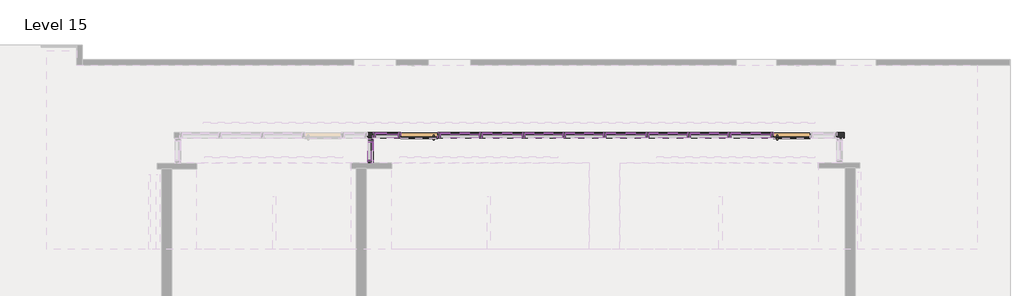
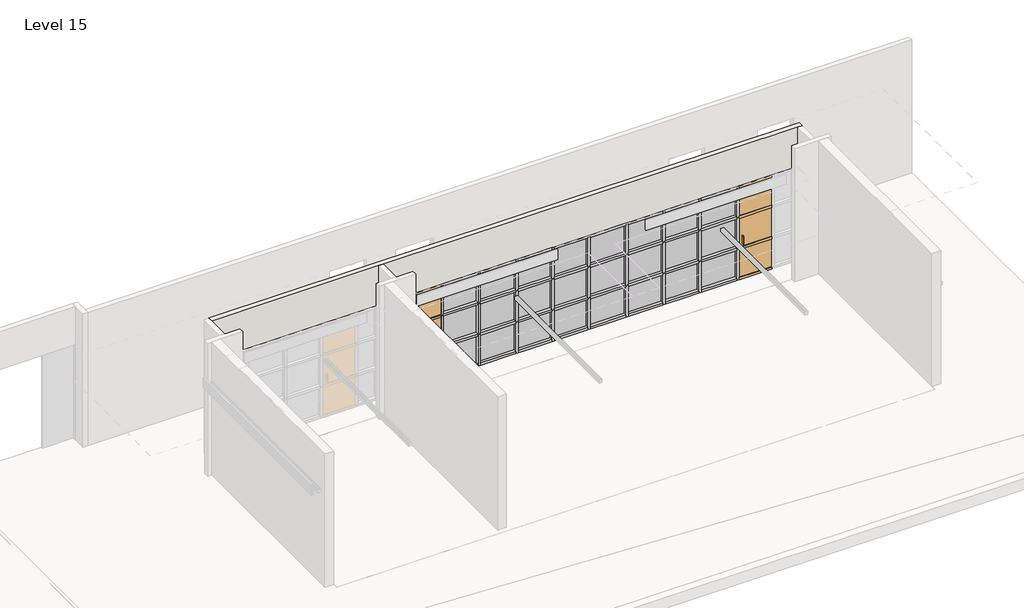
# One storey, part 5 of 11: 76 members, 29 plates, 2 doors, 1 wall.
"""IFC4 building model written with IfcOpenShell, lengths in millimetres."""

from ifc_helpers import new_model, si_unit, origin, place, context, project, spatial, faceted_brep, transform, mapped, element, save
from components import door_curtain_wall_single_glass_door_curtain_wall_single_wood_ac3a5db4, door_curtain_wall_single_glass_door_curtain_wall_single_wood_52bd217a, member_954a25dd, member_69cae7f1, member_b7368e82, member_f689fba6, member_99b0d556, member_2928588c, member_aa254800, member_33497832, member_885614b3, member_020991e8, member_0ac0aea5, system_panel_glazed_5f2f0821, system_panel_glazed_e2c65910, system_panel_glazed_83a0b09a, system_panel_glazed_51162286, system_panel_glazed_2a5f2a92, system_panel_glazed_1e867d6b, system_panel_glazed_c1d42a29, system_panel_glazed_42c55a29, system_panel_glazed_f6bd2fbf, system_panel_glazed_d9492c6f

model = new_model("IFC4")

# Units and contexts
model_context = context("Model", 3, world=origin())
ifc_project = project(units=[si_unit("LENGTHUNIT", "METRE", prefix="MILLI")], contexts=[model_context])

# Site, building, storey
site = spatial("IfcSite", under=ifc_project)
building = spatial("IfcBuilding", under=site)
storey = spatial("IfcBuildingStorey", under=building, Name="Level 15", Elevation=51206.4)

# Doors
placement = place(None, origin())
door_curtain_wall_single_glass_door_curtain_wall_single_wood_shape = door_curtain_wall_single_glass_door_curtain_wall_single_wood_ac3a5db4(model_context)
element("IfcDoor", 1, ObjectType="Door-Curtain-Wall-Single-Glass : Door-Curtain-Wall-Single-Wood", at=placement, inside=storey, context=model_context, shape_type="MappedRepresentation", body=[
    mapped(door_curtain_wall_single_glass_door_curtain_wall_single_wood_shape, transform((5157.8369657, 3036.0059951, 51206.4), x_axis=(-1.0, 0.0, 0.0), y_axis=(0.0, -1.0, 0.0), z_axis=(0.0, 0.0, 1.0))),
])
door_curtain_wall_single_glass_door_curtain_wall_single_wood_2_shape = door_curtain_wall_single_glass_door_curtain_wall_single_wood_52bd217a(model_context)
element("IfcDoor", 2, ObjectType="Door-Curtain-Wall-Single-Glass : Door-Curtain-Wall-Single-Wood", at=placement, inside=storey, context=model_context, shape_type="MappedRepresentation", body=[
    mapped(door_curtain_wall_single_glass_door_curtain_wall_single_wood_2_shape, transform((13793.8112561, 3036.0059951, 51206.4), x_axis=(1.0, 0.0, 0.0), y_axis=(0.0, 1.0, 0.0), z_axis=(0.0, 0.0, 1.0))),
])

# Members
member_shape = member_954a25dd(model_context)
element("IfcMember", 3, ObjectType="Rectangular Mullion : 2.5\" x 5\" rectangular", at=placement, inside=storey, context=model_context, shape_type="MappedRepresentation", body=[
    mapped(member_shape, transform((4076.4264687, 3036.0059951, 51206.4), x_axis=(-1.0, 0.0, 0.0), y_axis=(0.0, 1.0, 0.0), z_axis=(0.0, 0.0, -1.0))),
])
element("IfcMember", 4, ObjectType="Rectangular Mullion : 2.5\" x 5\" rectangular", at=placement, inside=storey, context=model_context, shape_type="MappedRepresentation", body=[
    mapped(member_shape, transform((4027.5369657, 2394.7059951, 53804.1570075), x_axis=(0.0, -1.0, 0.0), y_axis=(1.0, 0.0, 0.0), z_axis=(0.0, 0.0, 1.0))),
])
member_2_shape = member_69cae7f1(model_context)
element("IfcMember", 5, ObjectType="Rectangular Mullion : 2.5\" x 5\" rectangular", at=placement, inside=storey, context=model_context, shape_type="MappedRepresentation", body=[
    mapped(member_2_shape, transform((4700.6369657, 3036.0059951, 51206.4), x_axis=(-1.0, 0.0, 0.0), y_axis=(0.0, 1.0, 0.0), z_axis=(0.0, 0.0, -1.0))),
])
element("IfcMember", 6, ObjectType="Rectangular Mullion : 2.5\" x 5\" rectangular", at=placement, inside=storey, context=model_context, shape_type="MappedRepresentation", body=[
    mapped(member_2_shape, transform((5615.0369657, 3036.0059951, 51206.4), x_axis=(-1.0, 0.0, 0.0), y_axis=(0.0, 1.0, 0.0), z_axis=(0.0, 0.0, -1.0))),
])
element("IfcMember", 7, ObjectType="Rectangular Mullion : 2.5\" x 5\" rectangular", at=placement, inside=storey, context=model_context, shape_type="MappedRepresentation", body=[
    mapped(member_2_shape, transform((6580.2369657, 3036.0059951, 51206.4), x_axis=(-1.0, 0.0, 0.0), y_axis=(0.0, 1.0, 0.0), z_axis=(0.0, 0.0, -1.0))),
])
element("IfcMember", 8, ObjectType="Rectangular Mullion : 2.5\" x 5\" rectangular", at=placement, inside=storey, context=model_context, shape_type="MappedRepresentation", body=[
    mapped(member_2_shape, transform((7570.8369657, 3036.0059951, 51206.4), x_axis=(-1.0, 0.0, 0.0), y_axis=(0.0, 1.0, 0.0), z_axis=(0.0, 0.0, -1.0))),
])
element("IfcMember", 9, ObjectType="Rectangular Mullion : 2.5\" x 5\" rectangular", at=placement, inside=storey, context=model_context, shape_type="MappedRepresentation", body=[
    mapped(member_2_shape, transform((8510.6369657, 3036.0059951, 51206.4), x_axis=(-1.0, 0.0, 0.0), y_axis=(0.0, 1.0, 0.0), z_axis=(0.0, 0.0, -1.0))),
])
element("IfcMember", 10, ObjectType="Rectangular Mullion : 2.5\" x 5\" rectangular", at=placement, inside=storey, context=model_context, shape_type="MappedRepresentation", body=[
    mapped(member_2_shape, transform((9450.4369657, 3036.0059951, 51206.4), x_axis=(-1.0, 0.0, 0.0), y_axis=(0.0, 1.0, 0.0), z_axis=(0.0, 0.0, -1.0))),
])
element("IfcMember", 11, ObjectType="Rectangular Mullion : 2.5\" x 5\" rectangular", at=placement, inside=storey, context=model_context, shape_type="MappedRepresentation", body=[
    mapped(member_2_shape, transform((10441.0369657, 3036.0059951, 51206.4), x_axis=(-1.0, 0.0, 0.0), y_axis=(0.0, 1.0, 0.0), z_axis=(0.0, 0.0, -1.0))),
])
element("IfcMember", 12, ObjectType="Rectangular Mullion : 2.5\" x 5\" rectangular", at=placement, inside=storey, context=model_context, shape_type="MappedRepresentation", body=[
    mapped(member_2_shape, transform((11406.2369657, 3036.0059951, 51206.4), x_axis=(-1.0, 0.0, 0.0), y_axis=(0.0, 1.0, 0.0), z_axis=(0.0, 0.0, -1.0))),
])
element("IfcMember", 13, ObjectType="Rectangular Mullion : 2.5\" x 5\" rectangular", at=placement, inside=storey, context=model_context, shape_type="MappedRepresentation", body=[
    mapped(member_2_shape, transform((12346.0369657, 3036.0059951, 51206.4), x_axis=(-1.0, 0.0, 0.0), y_axis=(0.0, 1.0, 0.0), z_axis=(0.0, 0.0, -1.0))),
])
element("IfcMember", 14, ObjectType="Rectangular Mullion : 2.5\" x 5\" rectangular", at=placement, inside=storey, context=model_context, shape_type="MappedRepresentation", body=[
    mapped(member_2_shape, transform((13336.6369657, 3036.0059951, 51206.4), x_axis=(-1.0, 0.0, 0.0), y_axis=(0.0, 1.0, 0.0), z_axis=(0.0, 0.0, -1.0))),
])
member_3_shape = member_b7368e82(model_context)
element("IfcMember", 15, ObjectType="Rectangular Mullion : 2.5\" x 5\" rectangular", at=placement, inside=storey, context=model_context, shape_type="MappedRepresentation", body=[
    mapped(member_3_shape, transform((5646.7869657, 3036.0059951, 53804.1570075), x_axis=(0.0, 0.0, 1.0), y_axis=(0.0, 1.0, 0.0), z_axis=(-1.0, 0.0, 0.0))),
])
element("IfcMember", 16, ObjectType="Rectangular Mullion : 2.5\" x 5\" rectangular", at=placement, inside=storey, context=model_context, shape_type="MappedRepresentation", body=[
    mapped(member_3_shape, transform((10472.7869657, 3036.0059951, 53804.1570075), x_axis=(0.0, 0.0, 1.0), y_axis=(0.0, 1.0, 0.0), z_axis=(-1.0, 0.0, 0.0))),
])
member_4_shape = member_f689fba6(model_context)
element("IfcMember", 17, ObjectType="Rectangular Mullion : 2.5\" x 5\" rectangular", at=placement, inside=storey, context=model_context, shape_type="MappedRepresentation", body=[
    mapped(member_4_shape, transform((6611.9869657, 3036.0059951, 53804.1570075), x_axis=(0.0, 0.0, 1.0), y_axis=(0.0, 1.0, 0.0), z_axis=(-1.0, 0.0, 0.0))),
])
element("IfcMember", 18, ObjectType="Rectangular Mullion : 2.5\" x 5\" rectangular", at=placement, inside=storey, context=model_context, shape_type="MappedRepresentation", body=[
    mapped(member_4_shape, transform((9482.1869657, 3036.0059951, 53804.1570075), x_axis=(0.0, 0.0, 1.0), y_axis=(0.0, 1.0, 0.0), z_axis=(-1.0, 0.0, 0.0))),
])
element("IfcMember", 19, ObjectType="Rectangular Mullion : 2.5\" x 5\" rectangular", at=placement, inside=storey, context=model_context, shape_type="MappedRepresentation", body=[
    mapped(member_4_shape, transform((12377.7869657, 3036.0059951, 53804.1570075), x_axis=(0.0, 0.0, 1.0), y_axis=(0.0, 1.0, 0.0), z_axis=(-1.0, 0.0, 0.0))),
])
element("IfcMember", 20, ObjectType="Rectangular Mullion : 2.5\" x 5\" rectangular", at=placement, inside=storey, context=model_context, shape_type="MappedRepresentation", body=[
    mapped(member_3_shape, transform((6548.4869657, 3036.0059951, 51206.4), x_axis=(0.0, 0.0, -1.0), y_axis=(0.0, 1.0, 0.0), z_axis=(1.0, 0.0, 0.0))),
])
element("IfcMember", 21, ObjectType="Rectangular Mullion : 2.5\" x 5\" rectangular", at=placement, inside=storey, context=model_context, shape_type="MappedRepresentation", body=[
    mapped(member_3_shape, transform((11374.4869657, 3036.0059951, 51206.4), x_axis=(0.0, 0.0, -1.0), y_axis=(0.0, 1.0, 0.0), z_axis=(1.0, 0.0, 0.0))),
])
member_5_shape = member_99b0d556(model_context)
element("IfcMember", 22, ObjectType="Rectangular Mullion : 2.5\" x 5\" rectangular", at=placement, inside=storey, context=model_context, shape_type="MappedRepresentation", body=[
    mapped(member_5_shape, transform((7602.5869657, 3036.0059951, 53804.1570075), x_axis=(0.0, 0.0, 1.0), y_axis=(0.0, 1.0, 0.0), z_axis=(-1.0, 0.0, 0.0))),
])
element("IfcMember", 23, ObjectType="Rectangular Mullion : 2.5\" x 5\" rectangular", at=placement, inside=storey, context=model_context, shape_type="MappedRepresentation", body=[
    mapped(member_5_shape, transform((8542.3869657, 3036.0059951, 53804.1570075), x_axis=(0.0, 0.0, 1.0), y_axis=(0.0, 1.0, 0.0), z_axis=(-1.0, 0.0, 0.0))),
])
element("IfcMember", 24, ObjectType="Rectangular Mullion : 2.5\" x 5\" rectangular", at=placement, inside=storey, context=model_context, shape_type="MappedRepresentation", body=[
    mapped(member_5_shape, transform((11437.9869657, 3036.0059951, 53804.1570075), x_axis=(0.0, 0.0, 1.0), y_axis=(0.0, 1.0, 0.0), z_axis=(-1.0, 0.0, 0.0))),
])
element("IfcMember", 25, ObjectType="Rectangular Mullion : 2.5\" x 5\" rectangular", at=placement, inside=storey, context=model_context, shape_type="MappedRepresentation", body=[
    mapped(member_4_shape, transform((7539.0869657, 3036.0059951, 51206.4), x_axis=(0.0, 0.0, -1.0), y_axis=(0.0, 1.0, 0.0), z_axis=(1.0, 0.0, 0.0))),
])
element("IfcMember", 26, ObjectType="Rectangular Mullion : 2.5\" x 5\" rectangular", at=placement, inside=storey, context=model_context, shape_type="MappedRepresentation", body=[
    mapped(member_4_shape, transform((10409.2869657, 3036.0059951, 51206.4), x_axis=(0.0, 0.0, -1.0), y_axis=(0.0, 1.0, 0.0), z_axis=(1.0, 0.0, 0.0))),
])
element("IfcMember", 27, ObjectType="Rectangular Mullion : 2.5\" x 5\" rectangular", at=placement, inside=storey, context=model_context, shape_type="MappedRepresentation", body=[
    mapped(member_4_shape, transform((13304.8869657, 3036.0059951, 51206.4), x_axis=(0.0, 0.0, -1.0), y_axis=(0.0, 1.0, 0.0), z_axis=(1.0, 0.0, 0.0))),
])
element("IfcMember", 28, ObjectType="Rectangular Mullion : 2.5\" x 5\" rectangular", at=placement, inside=storey, context=model_context, shape_type="MappedRepresentation", body=[
    mapped(member_5_shape, transform((8478.8869657, 3036.0059951, 51206.4), x_axis=(0.0, 0.0, -1.0), y_axis=(0.0, 1.0, 0.0), z_axis=(1.0, 0.0, 0.0))),
])
element("IfcMember", 29, ObjectType="Rectangular Mullion : 2.5\" x 5\" rectangular", at=placement, inside=storey, context=model_context, shape_type="MappedRepresentation", body=[
    mapped(member_5_shape, transform((9418.6869657, 3036.0059951, 51206.4), x_axis=(0.0, 0.0, -1.0), y_axis=(0.0, 1.0, 0.0), z_axis=(1.0, 0.0, 0.0))),
])
element("IfcMember", 30, ObjectType="Rectangular Mullion : 2.5\" x 5\" rectangular", at=placement, inside=storey, context=model_context, shape_type="MappedRepresentation", body=[
    mapped(member_5_shape, transform((12314.2869657, 3036.0059951, 51206.4), x_axis=(0.0, 0.0, -1.0), y_axis=(0.0, 1.0, 0.0), z_axis=(1.0, 0.0, 0.0))),
])
member_6_shape = member_2928588c(model_context)
element("IfcMember", 31, ObjectType="Rectangular Mullion : 2.5\" x 5\" rectangular", at=placement, inside=storey, context=model_context, shape_type="MappedRepresentation", body=[
    mapped(member_6_shape, transform((12377.7869657, 3036.0059951, 52938.238005), x_axis=(0.0, 0.0, 1.0), y_axis=(0.0, 1.0, 0.0), z_axis=(-1.0, 0.0, 0.0))),
])
element("IfcMember", 32, ObjectType="Rectangular Mullion : 2.5\" x 5\" rectangular", at=placement, inside=storey, context=model_context, shape_type="MappedRepresentation", body=[
    mapped(member_6_shape, transform((9482.1869657, 3036.0059951, 52938.238005), x_axis=(0.0, 0.0, 1.0), y_axis=(0.0, 1.0, 0.0), z_axis=(-1.0, 0.0, 0.0))),
])
element("IfcMember", 33, ObjectType="Rectangular Mullion : 2.5\" x 5\" rectangular", at=placement, inside=storey, context=model_context, shape_type="MappedRepresentation", body=[
    mapped(member_6_shape, transform((6611.9869657, 3036.0059951, 52938.238005), x_axis=(0.0, 0.0, 1.0), y_axis=(0.0, 1.0, 0.0), z_axis=(-1.0, 0.0, 0.0))),
])
element("IfcMember", 34, ObjectType="Rectangular Mullion : 2.5\" x 5\" rectangular", at=placement, inside=storey, context=model_context, shape_type="MappedRepresentation", body=[
    mapped(member_6_shape, transform((12377.7869657, 3036.0059951, 52072.3190025), x_axis=(0.0, 0.0, 1.0), y_axis=(0.0, 1.0, 0.0), z_axis=(-1.0, 0.0, 0.0))),
])
element("IfcMember", 35, ObjectType="Rectangular Mullion : 2.5\" x 5\" rectangular", at=placement, inside=storey, context=model_context, shape_type="MappedRepresentation", body=[
    mapped(member_6_shape, transform((9482.1869657, 3036.0059951, 52072.3190025), x_axis=(0.0, 0.0, 1.0), y_axis=(0.0, 1.0, 0.0), z_axis=(-1.0, 0.0, 0.0))),
])
element("IfcMember", 36, ObjectType="Rectangular Mullion : 2.5\" x 5\" rectangular", at=placement, inside=storey, context=model_context, shape_type="MappedRepresentation", body=[
    mapped(member_6_shape, transform((6611.9869657, 3036.0059951, 52072.3190025), x_axis=(0.0, 0.0, 1.0), y_axis=(0.0, 1.0, 0.0), z_axis=(-1.0, 0.0, 0.0))),
])
member_7_shape = member_aa254800(model_context)
element("IfcMember", 37, ObjectType="Rectangular Mullion : 2.5\" x 5\" rectangular", at=placement, inside=storey, context=model_context, shape_type="MappedRepresentation", body=[
    mapped(member_7_shape, transform((11437.9869657, 3036.0059951, 52938.238005), x_axis=(0.0, 0.0, 1.0), y_axis=(0.0, 1.0, 0.0), z_axis=(-1.0, 0.0, 0.0))),
])
element("IfcMember", 38, ObjectType="Rectangular Mullion : 2.5\" x 5\" rectangular", at=placement, inside=storey, context=model_context, shape_type="MappedRepresentation", body=[
    mapped(member_7_shape, transform((8542.3869657, 3036.0059951, 52938.238005), x_axis=(0.0, 0.0, 1.0), y_axis=(0.0, 1.0, 0.0), z_axis=(-1.0, 0.0, 0.0))),
])
element("IfcMember", 39, ObjectType="Rectangular Mullion : 2.5\" x 5\" rectangular", at=placement, inside=storey, context=model_context, shape_type="MappedRepresentation", body=[
    mapped(member_7_shape, transform((7602.5869657, 3036.0059951, 52938.238005), x_axis=(0.0, 0.0, 1.0), y_axis=(0.0, 1.0, 0.0), z_axis=(-1.0, 0.0, 0.0))),
])
element("IfcMember", 40, ObjectType="Rectangular Mullion : 2.5\" x 5\" rectangular", at=placement, inside=storey, context=model_context, shape_type="MappedRepresentation", body=[
    mapped(member_7_shape, transform((11437.9869657, 3036.0059951, 52072.3190025), x_axis=(0.0, 0.0, 1.0), y_axis=(0.0, 1.0, 0.0), z_axis=(-1.0, 0.0, 0.0))),
])
element("IfcMember", 41, ObjectType="Rectangular Mullion : 2.5\" x 5\" rectangular", at=placement, inside=storey, context=model_context, shape_type="MappedRepresentation", body=[
    mapped(member_7_shape, transform((8542.3869657, 3036.0059951, 52072.3190025), x_axis=(0.0, 0.0, 1.0), y_axis=(0.0, 1.0, 0.0), z_axis=(-1.0, 0.0, 0.0))),
])
element("IfcMember", 42, ObjectType="Rectangular Mullion : 2.5\" x 5\" rectangular", at=placement, inside=storey, context=model_context, shape_type="MappedRepresentation", body=[
    mapped(member_7_shape, transform((7602.5869657, 3036.0059951, 52072.3190025), x_axis=(0.0, 0.0, 1.0), y_axis=(0.0, 1.0, 0.0), z_axis=(-1.0, 0.0, 0.0))),
])
member_8_shape = member_33497832(model_context)
element("IfcMember", 43, ObjectType="Rectangular Mullion : 2.5\" x 5\" rectangular", at=placement, inside=storey, context=model_context, shape_type="MappedRepresentation", body=[
    mapped(member_8_shape, transform((10472.7869657, 3036.0059951, 52938.238005), x_axis=(0.0, 0.0, 1.0), y_axis=(0.0, 1.0, 0.0), z_axis=(-1.0, 0.0, 0.0))),
])
element("IfcMember", 44, ObjectType="Rectangular Mullion : 2.5\" x 5\" rectangular", at=placement, inside=storey, context=model_context, shape_type="MappedRepresentation", body=[
    mapped(member_8_shape, transform((5646.7869657, 3036.0059951, 52938.238005), x_axis=(0.0, 0.0, 1.0), y_axis=(0.0, 1.0, 0.0), z_axis=(-1.0, 0.0, 0.0))),
])
element("IfcMember", 45, ObjectType="Rectangular Mullion : 2.5\" x 5\" rectangular", at=placement, inside=storey, context=model_context, shape_type="MappedRepresentation", body=[
    mapped(member_8_shape, transform((10472.7869657, 3036.0059951, 52072.3190025), x_axis=(0.0, 0.0, 1.0), y_axis=(0.0, 1.0, 0.0), z_axis=(-1.0, 0.0, 0.0))),
])
element("IfcMember", 46, ObjectType="Rectangular Mullion : 2.5\" x 5\" rectangular", at=placement, inside=storey, context=model_context, shape_type="MappedRepresentation", body=[
    mapped(member_8_shape, transform((5646.7869657, 3036.0059951, 52072.3190025), x_axis=(0.0, 0.0, 1.0), y_axis=(0.0, 1.0, 0.0), z_axis=(-1.0, 0.0, 0.0))),
])
element("IfcMember", 47, ObjectType="Rectangular Mullion : 2.5\" x 5\" rectangular", at=placement, inside=storey, context=model_context, shape_type="MappedRepresentation", body=[
    mapped(member_2_shape, transform((13336.6369657, 3036.0059951, 52938.238005), x_axis=(-1.0, 0.0, 0.0), y_axis=(0.0, 1.0, 0.0), z_axis=(0.0, 0.0, -1.0))),
])
element("IfcMember", 48, ObjectType="Rectangular Mullion : 2.5\" x 5\" rectangular", at=placement, inside=storey, context=model_context, shape_type="MappedRepresentation", body=[
    mapped(member_2_shape, transform((12346.0369657, 3036.0059951, 52938.238005), x_axis=(-1.0, 0.0, 0.0), y_axis=(0.0, 1.0, 0.0), z_axis=(0.0, 0.0, -1.0))),
])
element("IfcMember", 49, ObjectType="Rectangular Mullion : 2.5\" x 5\" rectangular", at=placement, inside=storey, context=model_context, shape_type="MappedRepresentation", body=[
    mapped(member_2_shape, transform((11406.2369657, 3036.0059951, 52938.238005), x_axis=(-1.0, 0.0, 0.0), y_axis=(0.0, 1.0, 0.0), z_axis=(0.0, 0.0, -1.0))),
])
element("IfcMember", 50, ObjectType="Rectangular Mullion : 2.5\" x 5\" rectangular", at=placement, inside=storey, context=model_context, shape_type="MappedRepresentation", body=[
    mapped(member_2_shape, transform((10441.0369657, 3036.0059951, 52938.238005), x_axis=(-1.0, 0.0, 0.0), y_axis=(0.0, 1.0, 0.0), z_axis=(0.0, 0.0, -1.0))),
])
element("IfcMember", 51, ObjectType="Rectangular Mullion : 2.5\" x 5\" rectangular", at=placement, inside=storey, context=model_context, shape_type="MappedRepresentation", body=[
    mapped(member_2_shape, transform((9450.4369657, 3036.0059951, 52938.238005), x_axis=(-1.0, 0.0, 0.0), y_axis=(0.0, 1.0, 0.0), z_axis=(0.0, 0.0, -1.0))),
])
element("IfcMember", 52, ObjectType="Rectangular Mullion : 2.5\" x 5\" rectangular", at=placement, inside=storey, context=model_context, shape_type="MappedRepresentation", body=[
    mapped(member_2_shape, transform((8510.6369657, 3036.0059951, 52938.238005), x_axis=(-1.0, 0.0, 0.0), y_axis=(0.0, 1.0, 0.0), z_axis=(0.0, 0.0, -1.0))),
])
element("IfcMember", 53, ObjectType="Rectangular Mullion : 2.5\" x 5\" rectangular", at=placement, inside=storey, context=model_context, shape_type="MappedRepresentation", body=[
    mapped(member_2_shape, transform((7570.8369657, 3036.0059951, 52938.238005), x_axis=(-1.0, 0.0, 0.0), y_axis=(0.0, 1.0, 0.0), z_axis=(0.0, 0.0, -1.0))),
])
element("IfcMember", 54, ObjectType="Rectangular Mullion : 2.5\" x 5\" rectangular", at=placement, inside=storey, context=model_context, shape_type="MappedRepresentation", body=[
    mapped(member_2_shape, transform((6580.2369657, 3036.0059951, 52938.238005), x_axis=(-1.0, 0.0, 0.0), y_axis=(0.0, 1.0, 0.0), z_axis=(0.0, 0.0, -1.0))),
])
element("IfcMember", 55, ObjectType="Rectangular Mullion : 2.5\" x 5\" rectangular", at=placement, inside=storey, context=model_context, shape_type="MappedRepresentation", body=[
    mapped(member_2_shape, transform((5615.0369657, 3036.0059951, 52938.238005), x_axis=(-1.0, 0.0, 0.0), y_axis=(0.0, 1.0, 0.0), z_axis=(0.0, 0.0, -1.0))),
])
element("IfcMember", 56, ObjectType="Rectangular Mullion : 2.5\" x 5\" rectangular", at=placement, inside=storey, context=model_context, shape_type="MappedRepresentation", body=[
    mapped(member_2_shape, transform((4700.6369657, 3036.0059951, 52938.238005), x_axis=(-1.0, 0.0, 0.0), y_axis=(0.0, 1.0, 0.0), z_axis=(0.0, 0.0, -1.0))),
])
element("IfcMember", 57, ObjectType="Rectangular Mullion : 2.5\" x 5\" rectangular", at=placement, inside=storey, context=model_context, shape_type="MappedRepresentation", body=[
    mapped(member_2_shape, transform((13336.6369657, 3036.0059951, 52072.3190025), x_axis=(-1.0, 0.0, 0.0), y_axis=(0.0, 1.0, 0.0), z_axis=(0.0, 0.0, -1.0))),
])
element("IfcMember", 58, ObjectType="Rectangular Mullion : 2.5\" x 5\" rectangular", at=placement, inside=storey, context=model_context, shape_type="MappedRepresentation", body=[
    mapped(member_2_shape, transform((12346.0369657, 3036.0059951, 52072.3190025), x_axis=(-1.0, 0.0, 0.0), y_axis=(0.0, 1.0, 0.0), z_axis=(0.0, 0.0, -1.0))),
])
element("IfcMember", 59, ObjectType="Rectangular Mullion : 2.5\" x 5\" rectangular", at=placement, inside=storey, context=model_context, shape_type="MappedRepresentation", body=[
    mapped(member_2_shape, transform((11406.2369657, 3036.0059951, 52072.3190025), x_axis=(-1.0, 0.0, 0.0), y_axis=(0.0, 1.0, 0.0), z_axis=(0.0, 0.0, -1.0))),
])
element("IfcMember", 60, ObjectType="Rectangular Mullion : 2.5\" x 5\" rectangular", at=placement, inside=storey, context=model_context, shape_type="MappedRepresentation", body=[
    mapped(member_2_shape, transform((10441.0369657, 3036.0059951, 52072.3190025), x_axis=(-1.0, 0.0, 0.0), y_axis=(0.0, 1.0, 0.0), z_axis=(0.0, 0.0, -1.0))),
])
element("IfcMember", 61, ObjectType="Rectangular Mullion : 2.5\" x 5\" rectangular", at=placement, inside=storey, context=model_context, shape_type="MappedRepresentation", body=[
    mapped(member_2_shape, transform((9450.4369657, 3036.0059951, 52072.3190025), x_axis=(-1.0, 0.0, 0.0), y_axis=(0.0, 1.0, 0.0), z_axis=(0.0, 0.0, -1.0))),
])
element("IfcMember", 62, ObjectType="Rectangular Mullion : 2.5\" x 5\" rectangular", at=placement, inside=storey, context=model_context, shape_type="MappedRepresentation", body=[
    mapped(member_2_shape, transform((8510.6369657, 3036.0059951, 52072.3190025), x_axis=(-1.0, 0.0, 0.0), y_axis=(0.0, 1.0, 0.0), z_axis=(0.0, 0.0, -1.0))),
])
element("IfcMember", 63, ObjectType="Rectangular Mullion : 2.5\" x 5\" rectangular", at=placement, inside=storey, context=model_context, shape_type="MappedRepresentation", body=[
    mapped(member_2_shape, transform((7570.8369657, 3036.0059951, 52072.3190025), x_axis=(-1.0, 0.0, 0.0), y_axis=(0.0, 1.0, 0.0), z_axis=(0.0, 0.0, -1.0))),
])
element("IfcMember", 64, ObjectType="Rectangular Mullion : 2.5\" x 5\" rectangular", at=placement, inside=storey, context=model_context, shape_type="MappedRepresentation", body=[
    mapped(member_2_shape, transform((6580.2369657, 3036.0059951, 52072.3190025), x_axis=(-1.0, 0.0, 0.0), y_axis=(0.0, 1.0, 0.0), z_axis=(0.0, 0.0, -1.0))),
])
element("IfcMember", 65, ObjectType="Rectangular Mullion : 2.5\" x 5\" rectangular", at=placement, inside=storey, context=model_context, shape_type="MappedRepresentation", body=[
    mapped(member_2_shape, transform((5615.0369657, 3036.0059951, 52072.3190025), x_axis=(-1.0, 0.0, 0.0), y_axis=(0.0, 1.0, 0.0), z_axis=(0.0, 0.0, -1.0))),
])
element("IfcMember", 66, ObjectType="Rectangular Mullion : 2.5\" x 5\" rectangular", at=placement, inside=storey, context=model_context, shape_type="MappedRepresentation", body=[
    mapped(member_2_shape, transform((4700.6369657, 3036.0059951, 52072.3190025), x_axis=(-1.0, 0.0, 0.0), y_axis=(0.0, 1.0, 0.0), z_axis=(0.0, 0.0, -1.0))),
])
member_9_shape = member_885614b3(model_context)
element("IfcMember", 67, ObjectType="Rectangular Mullion : 2.5\" x 5\" rectangular", at=placement, inside=storey, context=model_context, shape_type="MappedRepresentation", body=[
    mapped(member_9_shape, transform((4027.5369657, 2890.0059951, 52938.238005), x_axis=(0.0, 0.0, 1.0), y_axis=(1.0, 0.0, 0.0), z_axis=(0.0, 1.0, 0.0))),
])
element("IfcMember", 68, ObjectType="Rectangular Mullion : 2.5\" x 5\" rectangular", at=placement, inside=storey, context=model_context, shape_type="MappedRepresentation", body=[
    mapped(member_9_shape, transform((4027.5369657, 2890.0059951, 52072.3190025), x_axis=(0.0, 0.0, 1.0), y_axis=(1.0, 0.0, 0.0), z_axis=(0.0, 1.0, 0.0))),
])
element("IfcMember", 69, ObjectType="Rectangular Mullion : 2.5\" x 5\" rectangular", at=placement, inside=storey, context=model_context, shape_type="MappedRepresentation", body=[
    mapped(member_shape, transform((4076.4264687, 3036.0059951, 52938.238005), x_axis=(-1.0, 0.0, 0.0), y_axis=(0.0, 1.0, 0.0), z_axis=(0.0, 0.0, -1.0))),
])
element("IfcMember", 70, ObjectType="Rectangular Mullion : 2.5\" x 5\" rectangular", at=placement, inside=storey, context=model_context, shape_type="MappedRepresentation", body=[
    mapped(member_shape, transform((4027.5369657, 2953.5059951, 52938.238005), x_axis=(0.0, 1.0, 0.0), y_axis=(1.0, 0.0, 0.0), z_axis=(0.0, 0.0, -1.0))),
])
element("IfcMember", 71, ObjectType="Rectangular Mullion : 2.5\" x 5\" rectangular", at=placement, inside=storey, context=model_context, shape_type="MappedRepresentation", body=[
    mapped(member_shape, transform((4027.5369657, 2394.7059951, 52938.238005), x_axis=(0.0, -1.0, 0.0), y_axis=(1.0, 0.0, 0.0), z_axis=(0.0, 0.0, 1.0))),
])
element("IfcMember", 72, ObjectType="Rectangular Mullion : 2.5\" x 5\" rectangular", at=placement, inside=storey, context=model_context, shape_type="MappedRepresentation", body=[
    mapped(member_shape, transform((4076.4264687, 3036.0059951, 52072.3190025), x_axis=(-1.0, 0.0, 0.0), y_axis=(0.0, 1.0, 0.0), z_axis=(0.0, 0.0, -1.0))),
])
element("IfcMember", 73, ObjectType="Rectangular Mullion : 2.5\" x 5\" rectangular", at=placement, inside=storey, context=model_context, shape_type="MappedRepresentation", body=[
    mapped(member_shape, transform((4027.5369657, 2953.5059951, 52072.3190025), x_axis=(0.0, 1.0, 0.0), y_axis=(1.0, 0.0, 0.0), z_axis=(0.0, 0.0, -1.0))),
])
element("IfcMember", 74, ObjectType="Rectangular Mullion : 2.5\" x 5\" rectangular", at=placement, inside=storey, context=model_context, shape_type="MappedRepresentation", body=[
    mapped(member_shape, transform((4027.5369657, 2394.7059951, 52072.3190025), x_axis=(0.0, -1.0, 0.0), y_axis=(1.0, 0.0, 0.0), z_axis=(0.0, 0.0, 1.0))),
])
member_10_shape = member_020991e8(model_context)
element("IfcMember", 75, ObjectType="Rectangular Mullion : 2.5\" x 5\" rectangular", at=placement, inside=storey, context=model_context, shape_type="MappedRepresentation", body=[
    mapped(member_10_shape, transform((4139.9264687, 3036.0059951, 53804.1570075), x_axis=(0.0, 0.0, 1.0), y_axis=(0.0, 1.0, 0.0), z_axis=(-1.0, 0.0, 0.0))),
])
element("IfcMember", 76, ObjectType="Rectangular Mullion : 2.5\" x 5\" rectangular", at=placement, inside=storey, context=model_context, shape_type="MappedRepresentation", body=[
    mapped(member_10_shape, transform((4668.8869657, 3036.0059951, 51206.4), x_axis=(0.0, 0.0, -1.0), y_axis=(0.0, 1.0, 0.0), z_axis=(1.0, 0.0, 0.0))),
])
member_11_shape = member_0ac0aea5(model_context)
element("IfcMember", 77, ObjectType="Rectangular Mullion : 2.5\" x 5\" rectangular", at=placement, inside=storey, context=model_context, shape_type="MappedRepresentation", body=[
    mapped(member_11_shape, transform((4139.9264687, 3036.0059951, 52938.238005), x_axis=(0.0, 0.0, 1.0), y_axis=(0.0, 1.0, 0.0), z_axis=(-1.0, 0.0, 0.0))),
])
element("IfcMember", 78, ObjectType="Rectangular Mullion : 2.5\" x 5\" rectangular", at=placement, inside=storey, context=model_context, shape_type="MappedRepresentation", body=[
    mapped(member_11_shape, transform((4139.9264687, 3036.0059951, 52072.3190025), x_axis=(0.0, 0.0, 1.0), y_axis=(0.0, 1.0, 0.0), z_axis=(-1.0, 0.0, 0.0))),
])

# Plates
system_panel_glazed_shape = system_panel_glazed_5f2f0821(model_context)
element("IfcPlate", 79, ObjectType="System Panel : Glazed", at=placement, inside=storey, context=model_context, shape_type="MappedRepresentation", body=[
    mapped(system_panel_glazed_shape, transform((4027.5369657, 2674.1059951, 52969.988005), x_axis=(0.0, 1.0, 0.0), y_axis=(-1.0, 0.0, 0.0), z_axis=(0.0, 0.0, 1.0))),
])
system_panel_glazed_2_shape = system_panel_glazed_e2c65910(model_context)
element("IfcPlate", 80, ObjectType="System Panel : Glazed", at=placement, inside=storey, context=model_context, shape_type="MappedRepresentation", body=[
    mapped(system_panel_glazed_2_shape, transform((6097.6369657, 3036.0059951, 51269.9), x_axis=(-1.0, 0.0, 0.0), y_axis=(0.0, -1.0, 0.0), z_axis=(0.0, 0.0, 1.0))),
])
element("IfcPlate", 81, ObjectType="System Panel : Glazed", at=placement, inside=storey, context=model_context, shape_type="MappedRepresentation", body=[
    mapped(system_panel_glazed_2_shape, transform((10923.6369657, 3036.0059951, 51269.9), x_axis=(-1.0, 0.0, 0.0), y_axis=(0.0, -1.0, 0.0), z_axis=(0.0, 0.0, 1.0))),
])
element("IfcPlate", 82, ObjectType="System Panel : Glazed", at=placement, inside=storey, context=model_context, shape_type="MappedRepresentation", body=[
    mapped(system_panel_glazed_2_shape, transform((10923.6369657, 3036.0059951, 52969.988005), x_axis=(-1.0, 0.0, 0.0), y_axis=(0.0, -1.0, 0.0), z_axis=(0.0, 0.0, 1.0))),
])
element("IfcPlate", 83, ObjectType="System Panel : Glazed", at=placement, inside=storey, context=model_context, shape_type="MappedRepresentation", body=[
    mapped(system_panel_glazed_2_shape, transform((6097.6369657, 3036.0059951, 52969.988005), x_axis=(-1.0, 0.0, 0.0), y_axis=(0.0, -1.0, 0.0), z_axis=(0.0, 0.0, 1.0))),
])
system_panel_glazed_3_shape = system_panel_glazed_83a0b09a(model_context)
element("IfcPlate", 84, ObjectType="System Panel : Glazed", at=placement, inside=storey, context=model_context, shape_type="MappedRepresentation", body=[
    mapped(system_panel_glazed_3_shape, transform((7075.5369657, 3036.0059951, 51269.9), x_axis=(-1.0, 0.0, 0.0), y_axis=(0.0, -1.0, 0.0), z_axis=(0.0, 0.0, 1.0))),
])
element("IfcPlate", 85, ObjectType="System Panel : Glazed", at=placement, inside=storey, context=model_context, shape_type="MappedRepresentation", body=[
    mapped(system_panel_glazed_3_shape, transform((9945.7369657, 3036.0059951, 51269.9), x_axis=(-1.0, 0.0, 0.0), y_axis=(0.0, -1.0, 0.0), z_axis=(0.0, 0.0, 1.0))),
])
element("IfcPlate", 86, ObjectType="System Panel : Glazed", at=placement, inside=storey, context=model_context, shape_type="MappedRepresentation", body=[
    mapped(system_panel_glazed_3_shape, transform((12841.3369657, 3036.0059951, 51269.9), x_axis=(-1.0, 0.0, 0.0), y_axis=(0.0, -1.0, 0.0), z_axis=(0.0, 0.0, 1.0))),
])
element("IfcPlate", 87, ObjectType="System Panel : Glazed", at=placement, inside=storey, context=model_context, shape_type="MappedRepresentation", body=[
    mapped(system_panel_glazed_3_shape, transform((12841.3369657, 3036.0059951, 52969.988005), x_axis=(-1.0, 0.0, 0.0), y_axis=(0.0, -1.0, 0.0), z_axis=(0.0, 0.0, 1.0))),
])
element("IfcPlate", 88, ObjectType="System Panel : Glazed", at=placement, inside=storey, context=model_context, shape_type="MappedRepresentation", body=[
    mapped(system_panel_glazed_3_shape, transform((9945.7369657, 3036.0059951, 52969.988005), x_axis=(-1.0, 0.0, 0.0), y_axis=(0.0, -1.0, 0.0), z_axis=(0.0, 0.0, 1.0))),
])
element("IfcPlate", 89, ObjectType="System Panel : Glazed", at=placement, inside=storey, context=model_context, shape_type="MappedRepresentation", body=[
    mapped(system_panel_glazed_3_shape, transform((7075.5369657, 3036.0059951, 52969.988005), x_axis=(-1.0, 0.0, 0.0), y_axis=(0.0, -1.0, 0.0), z_axis=(0.0, 0.0, 1.0))),
])
system_panel_glazed_4_shape = system_panel_glazed_51162286(model_context)
element("IfcPlate", 90, ObjectType="System Panel : Glazed", at=placement, inside=storey, context=model_context, shape_type="MappedRepresentation", body=[
    mapped(system_panel_glazed_4_shape, transform((8040.7369657, 3036.0059951, 51269.9), x_axis=(-1.0, 0.0, 0.0), y_axis=(0.0, -1.0, 0.0), z_axis=(0.0, 0.0, 1.0))),
])
element("IfcPlate", 91, ObjectType="System Panel : Glazed", at=placement, inside=storey, context=model_context, shape_type="MappedRepresentation", body=[
    mapped(system_panel_glazed_4_shape, transform((8980.5369657, 3036.0059951, 51269.9), x_axis=(-1.0, 0.0, 0.0), y_axis=(0.0, -1.0, 0.0), z_axis=(0.0, 0.0, 1.0))),
])
element("IfcPlate", 92, ObjectType="System Panel : Glazed", at=placement, inside=storey, context=model_context, shape_type="MappedRepresentation", body=[
    mapped(system_panel_glazed_4_shape, transform((11876.1369657, 3036.0059951, 51269.9), x_axis=(-1.0, 0.0, 0.0), y_axis=(0.0, -1.0, 0.0), z_axis=(0.0, 0.0, 1.0))),
])
element("IfcPlate", 93, ObjectType="System Panel : Glazed", at=placement, inside=storey, context=model_context, shape_type="MappedRepresentation", body=[
    mapped(system_panel_glazed_4_shape, transform((11876.1369657, 3036.0059951, 52969.988005), x_axis=(-1.0, 0.0, 0.0), y_axis=(0.0, -1.0, 0.0), z_axis=(0.0, 0.0, 1.0))),
])
element("IfcPlate", 94, ObjectType="System Panel : Glazed", at=placement, inside=storey, context=model_context, shape_type="MappedRepresentation", body=[
    mapped(system_panel_glazed_4_shape, transform((8980.5369657, 3036.0059951, 52969.988005), x_axis=(-1.0, 0.0, 0.0), y_axis=(0.0, -1.0, 0.0), z_axis=(0.0, 0.0, 1.0))),
])
element("IfcPlate", 95, ObjectType="System Panel : Glazed", at=placement, inside=storey, context=model_context, shape_type="MappedRepresentation", body=[
    mapped(system_panel_glazed_4_shape, transform((8040.7369657, 3036.0059951, 52969.988005), x_axis=(-1.0, 0.0, 0.0), y_axis=(0.0, -1.0, 0.0), z_axis=(0.0, 0.0, 1.0))),
])
system_panel_glazed_5_shape = system_panel_glazed_2a5f2a92(model_context)
element("IfcPlate", 96, ObjectType="System Panel : Glazed", at=placement, inside=storey, context=model_context, shape_type="MappedRepresentation", body=[
    mapped(system_panel_glazed_5_shape, transform((12841.3369657, 3036.0059951, 52104.0690025), x_axis=(-1.0, 0.0, 0.0), y_axis=(0.0, -1.0, 0.0), z_axis=(0.0, 0.0, 1.0))),
])
element("IfcPlate", 97, ObjectType="System Panel : Glazed", at=placement, inside=storey, context=model_context, shape_type="MappedRepresentation", body=[
    mapped(system_panel_glazed_5_shape, transform((9945.7369657, 3036.0059951, 52104.0690025), x_axis=(-1.0, 0.0, 0.0), y_axis=(0.0, -1.0, 0.0), z_axis=(0.0, 0.0, 1.0))),
])
element("IfcPlate", 98, ObjectType="System Panel : Glazed", at=placement, inside=storey, context=model_context, shape_type="MappedRepresentation", body=[
    mapped(system_panel_glazed_5_shape, transform((7075.5369657, 3036.0059951, 52104.0690025), x_axis=(-1.0, 0.0, 0.0), y_axis=(0.0, -1.0, 0.0), z_axis=(0.0, 0.0, 1.0))),
])
system_panel_glazed_6_shape = system_panel_glazed_1e867d6b(model_context)
element("IfcPlate", 99, ObjectType="System Panel : Glazed", at=placement, inside=storey, context=model_context, shape_type="MappedRepresentation", body=[
    mapped(system_panel_glazed_6_shape, transform((11876.1369657, 3036.0059951, 52104.0690025), x_axis=(-1.0, 0.0, 0.0), y_axis=(0.0, -1.0, 0.0), z_axis=(0.0, 0.0, 1.0))),
])
element("IfcPlate", 100, ObjectType="System Panel : Glazed", at=placement, inside=storey, context=model_context, shape_type="MappedRepresentation", body=[
    mapped(system_panel_glazed_6_shape, transform((8980.5369657, 3036.0059951, 52104.0690025), x_axis=(-1.0, 0.0, 0.0), y_axis=(0.0, -1.0, 0.0), z_axis=(0.0, 0.0, 1.0))),
])
element("IfcPlate", 101, ObjectType="System Panel : Glazed", at=placement, inside=storey, context=model_context, shape_type="MappedRepresentation", body=[
    mapped(system_panel_glazed_6_shape, transform((8040.7369657, 3036.0059951, 52104.0690025), x_axis=(-1.0, 0.0, 0.0), y_axis=(0.0, -1.0, 0.0), z_axis=(0.0, 0.0, 1.0))),
])
system_panel_glazed_7_shape = system_panel_glazed_c1d42a29(model_context)
element("IfcPlate", 102, ObjectType="System Panel : Glazed", at=placement, inside=storey, context=model_context, shape_type="MappedRepresentation", body=[
    mapped(system_panel_glazed_7_shape, transform((10923.6369657, 3036.0059951, 52104.0690025), x_axis=(-1.0, 0.0, 0.0), y_axis=(0.0, -1.0, 0.0), z_axis=(0.0, 0.0, 1.0))),
])
element("IfcPlate", 103, ObjectType="System Panel : Glazed", at=placement, inside=storey, context=model_context, shape_type="MappedRepresentation", body=[
    mapped(system_panel_glazed_7_shape, transform((6097.6369657, 3036.0059951, 52104.0690025), x_axis=(-1.0, 0.0, 0.0), y_axis=(0.0, -1.0, 0.0), z_axis=(0.0, 0.0, 1.0))),
])
system_panel_glazed_8_shape = system_panel_glazed_42c55a29(model_context)
element("IfcPlate", 104, ObjectType="System Panel : Glazed", at=placement, inside=storey, context=model_context, shape_type="MappedRepresentation", body=[
    mapped(system_panel_glazed_8_shape, transform((4027.5369657, 2674.1059951, 52104.0690025), x_axis=(0.0, 1.0, 0.0), y_axis=(-1.0, 0.0, 0.0), z_axis=(0.0, 0.0, 1.0))),
])
system_panel_glazed_9_shape = system_panel_glazed_f6bd2fbf(model_context)
element("IfcPlate", 105, ObjectType="System Panel : Glazed", at=placement, inside=storey, context=model_context, shape_type="MappedRepresentation", body=[
    mapped(system_panel_glazed_9_shape, transform((4404.4067172, 3036.0059951, 51269.9), x_axis=(-1.0, 0.0, 0.0), y_axis=(0.0, -1.0, 0.0), z_axis=(0.0, 0.0, 1.0))),
])
element("IfcPlate", 106, ObjectType="System Panel : Glazed", at=placement, inside=storey, context=model_context, shape_type="MappedRepresentation", body=[
    mapped(system_panel_glazed_9_shape, transform((4404.4067172, 3036.0059951, 52969.988005), x_axis=(-1.0, 0.0, 0.0), y_axis=(0.0, -1.0, 0.0), z_axis=(0.0, 0.0, 1.0))),
])
system_panel_glazed_10_shape = system_panel_glazed_d9492c6f(model_context)
element("IfcPlate", 107, ObjectType="System Panel : Glazed", at=placement, inside=storey, context=model_context, shape_type="MappedRepresentation", body=[
    mapped(system_panel_glazed_10_shape, transform((4404.4067172, 3036.0059951, 52104.0690025), x_axis=(-1.0, 0.0, 0.0), y_axis=(0.0, -1.0, 0.0), z_axis=(0.0, 0.0, 1.0))),
])

# Wall
element("IfcWall", 108, ObjectType="Generic - 5\"", at=placement, inside=storey, context=model_context, shape_type="Brep", body=[
    faceted_brep([(15015.6944049, 2976.416042, 54889.4), (14888.6944049, 2976.416042, 54889.4), (4076.4264687, 2976.416042, 54889.4), (3949.4264687, 2976.416042, 54889.4), (-402.1055951, 2976.416042, 54889.4), (-402.1055951, 2976.416042, 53804.1570075), (3949.4264687, 2976.416042, 53804.1570075), (3949.4264687, 2976.416042, 51206.4), (4076.4264687, 2976.416042, 51206.4), (4076.4264687, 2976.416042, 53804.1570075), (14835.1855466, 2976.416042, 53804.1570075), (14835.1855466, 2976.416042, 51206.4), (14888.6944049, 2976.416042, 51206.4), (15015.6944049, 2976.416042, 51206.4), (-402.1055951, 3103.416042, 54889.4), (15015.6944049, 3103.416042, 54889.4), (15015.6944049, 3103.416042, 51206.4), (14835.1855466, 3103.416042, 51206.4), (14835.1855466, 3103.416042, 53804.1570075), (4076.4264687, 3103.416042, 53804.1570075), (4076.4264687, 3103.416042, 51206.4), (3949.4264687, 3103.416042, 51206.4), (3949.4264687, 3103.416042, 53804.1570075), (-402.1055951, 3103.416042, 53804.1570075)], [[[0, 1, 2, 3, 4, 5, 6, 7, 8, 9, 10, 11, 12, 13]], [[14, 15, 16, 17, 18, 19, 20, 21, 22, 23]], [[16, 13, 12, 11, 17]], [[20, 8, 7, 21]], [[4, 3, 2, 1, 0, 15, 14]], [[4, 14, 23, 5]], [[0, 13, 16, 15]], [[10, 18, 17, 11]], [[18, 10, 9, 19]], [[19, 9, 8, 20]], [[6, 22, 21, 7]], [[22, 6, 5, 23]]]),
])

save(model, "model.ifc")
